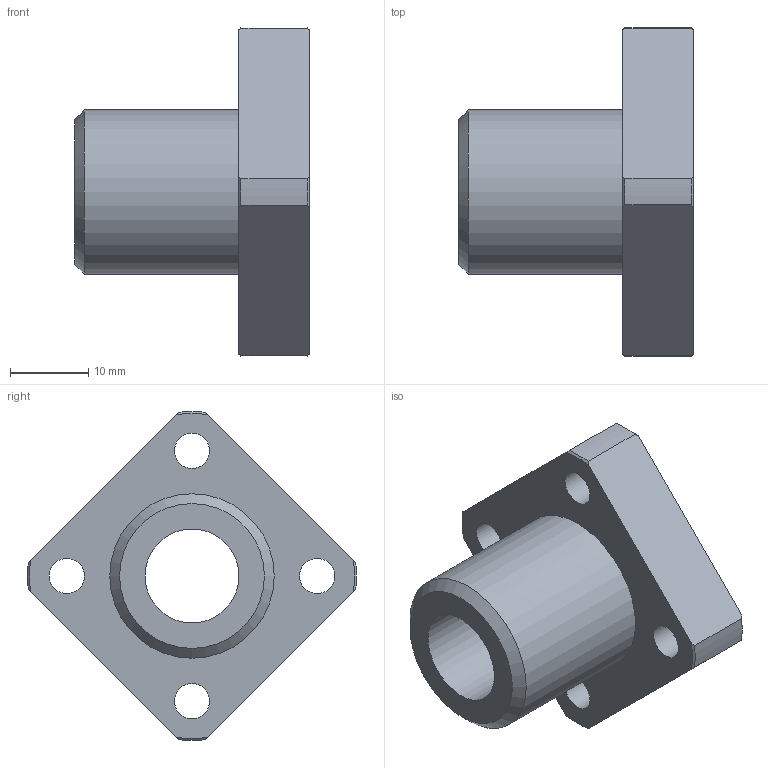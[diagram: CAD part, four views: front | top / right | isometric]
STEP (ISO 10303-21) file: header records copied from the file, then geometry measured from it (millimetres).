
FILE_DESCRIPTION(('STEP AP203'),'1');
FILE_NAME('//192.168.1.1/share/s-4 技術開発/s-4-4_CAD/s-4-4-3_見直し済み/PBC LINEAR修正済み/3D途中/SFPJ/SFPJ/SFPJ12.step','2022-03-24T05:53:29',(' '),(' '),'Spatial InterOp 3D',' ',' ');
FILE_SCHEMA(('CONFIG_CONTROL_DESIGN'));
Length unit declared in the file: millimetre
Products named in the file (1): 1
Bounding box: 30 x 41.98 x 41.98 mm (x, y, z)
Volume: 11912 mm3; surface area: 5899.3 mm2
Topology: 1 solids, 1 shells, 34 faces, 85 edges, 58 vertices
Faces by surface type: cylinder 14, plane 11, cone 9
Full cylindrical faces by diameter (mm): 4.5 x4, 7.5 x4, 12 x1, 21 x1
Entity records: 1018 total; most frequent: CARTESIAN_POINT 205, DIRECTION 160, ORIENTED_EDGE 138, AXIS2_PLACEMENT_3D 72, EDGE_CURVE 69, EDGE_LOOP 60, VERTEX_POINT 53, FACE_OUTER_BOUND 44
